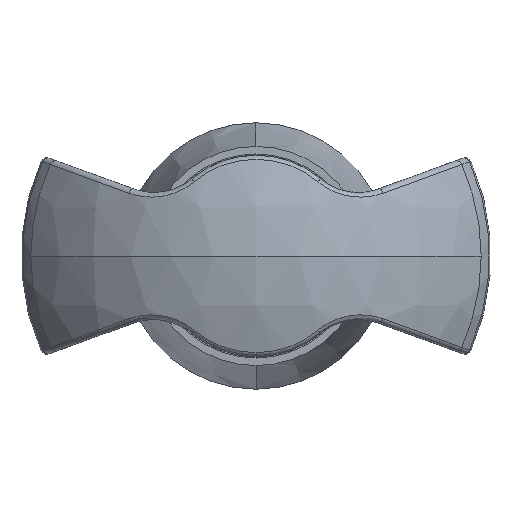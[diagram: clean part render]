
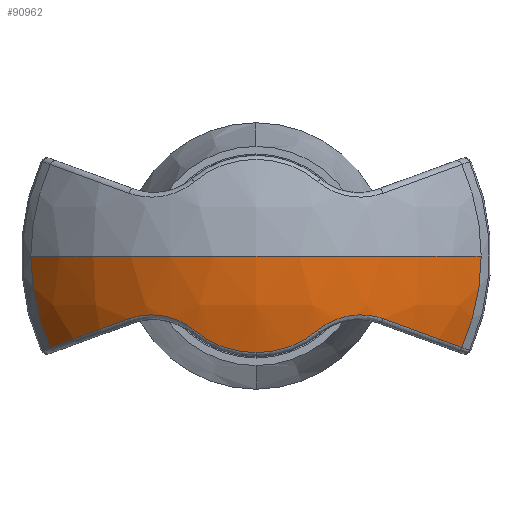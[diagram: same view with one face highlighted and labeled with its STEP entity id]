
A CAD part, left-side view. The second image highlights one B-rep face of the part: STEP entity #90962.
In plain terms, the highlighted spherical face has radius 24 mm.
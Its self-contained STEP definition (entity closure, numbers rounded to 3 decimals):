
#551 = VERTEX_POINT ( 'NONE', #48860 ) ;
#590 = CARTESIAN_POINT ( 'NONE',  ( 10.326, 27.09, -5.156 ) ) ;
#781 = CARTESIAN_POINT ( 'NONE',  ( 5.232, 28.607, -6.275 ) ) ;
#1097 = B_SPLINE_CURVE_WITH_KNOTS ( 'NONE', 3,
 ( #7609, #590, #29118, #57638, #22103, #50621, #79131, #15076, #43605, #89690, #55104, #26130, #53733, #90609, #69127, #61209 ),
 .UNSPECIFIED., .F., .F.,
 ( 4, 2, 2, 2, 2, 2, 2, 4 ),
 ( 0., 0.002, 0.002, 0.003, 0.004, 0.005, 0.005, 0.006 ),
 .UNSPECIFIED. ) ;
#2571 = DIRECTION ( 'NONE',  ( 0., 0., -1. ) ) ;
#2628 = ORIENTED_EDGE ( 'NONE', *, *, #7882, .T. ) ;
#2901 = DIRECTION ( 'NONE',  ( 0., 0., -1. ) ) ;
#4055 = B_SPLINE_CURVE_WITH_KNOTS ( 'NONE', 3,
 ( #18544, #82592, #75584, #11977, #32588, #47981, #76496, #33040, #4973, #11522, #39607, #4519, #5439, #4070, #90977, #12445 ),
 .UNSPECIFIED., .F., .F.,
 ( 4, 2, 2, 2, 2, 2, 2, 4 ),
 ( 0., 0.002, 0.002, 0.003, 0.004, 0.005, 0.005, 0.006 ),
 .UNSPECIFIED. ) ;
#4070 = CARTESIAN_POINT ( 'NONE',  ( -10.321, 27.085, -5.169 ) ) ;
#4519 = CARTESIAN_POINT ( 'NONE',  ( -9.642, 27.438, -5.026 ) ) ;
#4973 = CARTESIAN_POINT ( 'NONE',  ( -8.459, 27.943, -4.979 ) ) ;
#5037 = EDGE_CURVE ( 'NONE', #82109, #38217, #57279, .T. ) ;
#5439 = CARTESIAN_POINT ( 'NONE',  ( -9.872, 27.324, -5.065 ) ) ;
#5795 = CIRCLE ( 'NONE', #58065, 19.019 ) ;
#7332 = AXIS2_PLACEMENT_3D ( 'NONE', #12439, #47516, #19454 ) ;
#7609 = CARTESIAN_POINT ( 'NONE',  ( 10.751, 26.831, -5.311 ) ) ;
#7882 = EDGE_CURVE ( 'NONE', #83776, #39553, #1097, .T. ) ;
#8051 = ORIENTED_EDGE ( 'NONE', *, *, #88239, .F. ) ;
#8282 = ORIENTED_EDGE ( 'NONE', *, *, #69415, .T. ) ;
#9330 = EDGE_LOOP ( 'NONE', ( #47502, #57951, #8051, #79442, #2628, #70506, #33467, #82572, #8282, #35615 ) ) ;
#11522 = CARTESIAN_POINT ( 'NONE',  ( -8.939, 27.754, -4.968 ) ) ;
#11977 = CARTESIAN_POINT ( 'NONE',  ( -6.768, 28.436, -5.358 ) ) ;
#12341 = CIRCLE ( 'NONE', #39260, 24. ) ;
#12439 = CARTESIAN_POINT ( 'NONE',  ( 0.449, 6.041, -1.234 ) ) ;
#12445 = CARTESIAN_POINT ( 'NONE',  ( -10.751, 26.831, -5.311 ) ) ;
#13107 = AXIS2_PLACEMENT_3D ( 'NONE', #17384, #2901, #38436 ) ;
#13205 = AXIS2_PLACEMENT_3D ( 'NONE', #36567, #43120, #29090 ) ;
#13207 = CARTESIAN_POINT ( 'NONE',  ( 0., 6.041, 0. ) ) ;
#14804 = VERTEX_POINT ( 'NONE', #31822 ) ;
#15076 = CARTESIAN_POINT ( 'NONE',  ( 7.738, 28.187, -5.074 ) ) ;
#17384 = CARTESIAN_POINT ( 'NONE',  ( 0., 6.041, 0. ) ) ;
#18544 = CARTESIAN_POINT ( 'NONE',  ( -5.232, 28.607, -6.275 ) ) ;
#19454 = DIRECTION ( 'NONE',  ( 0.94, 0., 0.342 ) ) ;
#19918 = CARTESIAN_POINT ( 'NONE',  ( 0., 30.041, 0. ) ) ;
#21443 = DIRECTION ( 'NONE',  ( 0., 0., -1. ) ) ;
#22103 = CARTESIAN_POINT ( 'NONE',  ( 8.943, 27.753, -4.968 ) ) ;
#22293 = CIRCLE ( 'NONE', #7332, 23.964 ) ;
#22329 = VERTEX_POINT ( 'NONE', #67910 ) ;
#23725 = VERTEX_POINT ( 'NONE', #66202 ) ;
#25313 = FACE_OUTER_BOUND ( 'NONE', #9330, .T. ) ;
#26130 = CARTESIAN_POINT ( 'NONE',  ( 6.309, 28.52, -5.563 ) ) ;
#26325 = CARTESIAN_POINT ( 'NONE',  ( 0., 20.68, 0. ) ) ;
#26623 = DIRECTION ( 'NONE',  ( 0., 1., 0. ) ) ;
#27088 = DIRECTION ( 'NONE',  ( 0., 0., -1. ) ) ;
#27856 = DIRECTION ( 'NONE',  ( 0., 0., -1. ) ) ;
#29090 = DIRECTION ( 'NONE',  ( 0.94, 0., -0.342 ) ) ;
#29118 = CARTESIAN_POINT ( 'NONE',  ( 9.882, 27.327, -5.052 ) ) ;
#31050 = CARTESIAN_POINT ( 'NONE',  ( -19.019, 20.68, 0. ) ) ;
#31822 = CARTESIAN_POINT ( 'NONE',  ( -17.38, 20.68, -7.724 ) ) ;
#31854 = VERTEX_POINT ( 'NONE', #35340 ) ;
#32588 = CARTESIAN_POINT ( 'NONE',  ( -7.007, 28.384, -5.27 ) ) ;
#33040 = CARTESIAN_POINT ( 'NONE',  ( -8.214, 28.032, -5. ) ) ;
#33467 = ORIENTED_EDGE ( 'NONE', *, *, #60689, .T. ) ;
#35340 = CARTESIAN_POINT ( 'NONE',  ( -5.232, 28.607, -6.275 ) ) ;
#35615 = ORIENTED_EDGE ( 'NONE', *, *, #45711, .F. ) ;
#35788 = CARTESIAN_POINT ( 'NONE',  ( 0., 20.68, 0. ) ) ;
#36567 = CARTESIAN_POINT ( 'NONE',  ( -0.449, 6.041, -1.234 ) ) ;
#38217 = VERTEX_POINT ( 'NONE', #43629 ) ;
#38436 = DIRECTION ( 'NONE',  ( -1., 0., 0. ) ) ;
#39260 = AXIS2_PLACEMENT_3D ( 'NONE', #13207, #57136, #63241 ) ;
#39553 = VERTEX_POINT ( 'NONE', #781 ) ;
#39607 = CARTESIAN_POINT ( 'NONE',  ( -9.176, 27.653, -4.978 ) ) ;
#43120 = DIRECTION ( 'NONE',  ( 0.342, 0., 0.94 ) ) ;
#43605 = CARTESIAN_POINT ( 'NONE',  ( 7.497, 28.257, -5.126 ) ) ;
#43629 = CARTESIAN_POINT ( 'NONE',  ( 19.019, 20.68, 0. ) ) ;
#44530 = CARTESIAN_POINT ( 'NONE',  ( 0., 6.041, 0. ) ) ;
#45711 = EDGE_CURVE ( 'NONE', #77518, #14804, #81044, .T. ) ;
#46892 = CARTESIAN_POINT ( 'NONE',  ( 10.751, 26.831, -5.311 ) ) ;
#47502 = ORIENTED_EDGE ( 'NONE', *, *, #55092, .F. ) ;
#47516 = DIRECTION ( 'NONE',  ( -0.342, 0., 0.94 ) ) ;
#47981 = CARTESIAN_POINT ( 'NONE',  ( -7.486, 28.261, -5.129 ) ) ;
#48860 = CARTESIAN_POINT ( 'NONE',  ( 17.38, 20.68, -7.724 ) ) ;
#50621 = CARTESIAN_POINT ( 'NONE',  ( 8.461, 27.943, -4.979 ) ) ;
#51210 = DIRECTION ( 'NONE',  ( 0., -1., 0. ) ) ;
#53532 = CIRCLE ( 'NONE', #13205, 23.964 ) ;
#53733 = CARTESIAN_POINT ( 'NONE',  ( 6.083, 28.553, -5.683 ) ) ;
#54257 = AXIS2_PLACEMENT_3D ( 'NONE', #44530, #27856, #92330 ) ;
#55092 = EDGE_CURVE ( 'NONE', #82109, #77518, #12341, .T. ) ;
#55104 = CARTESIAN_POINT ( 'NONE',  ( 6.774, 28.435, -5.355 ) ) ;
#55597 = AXIS2_PLACEMENT_3D ( 'NONE', #35788, #51210, #2571 ) ;
#57136 = DIRECTION ( 'NONE',  ( 0., 0., 1. ) ) ;
#57141 = CIRCLE ( 'NONE', #81049, 8.17 ) ;
#57279 = CIRCLE ( 'NONE', #54257, 24. ) ;
#57638 = CARTESIAN_POINT ( 'NONE',  ( 9.183, 27.65, -4.978 ) ) ;
#57951 = ORIENTED_EDGE ( 'NONE', *, *, #5037, .T. ) ;
#58065 = AXIS2_PLACEMENT_3D ( 'NONE', #26325, #75873, #61853 ) ;
#60401 = SPHERICAL_SURFACE ( 'NONE', #13107, 24. ) ;
#60689 = EDGE_CURVE ( 'NONE', #22329, #31854, #57141, .T. ) ;
#60700 = EDGE_CURVE ( 'NONE', #39553, #22329, #72096, .T. ) ;
#61209 = CARTESIAN_POINT ( 'NONE',  ( 5.232, 28.607, -6.275 ) ) ;
#61853 = DIRECTION ( 'NONE',  ( 0., 0., -1. ) ) ;
#63241 = DIRECTION ( 'NONE',  ( 1., 0., 0. ) ) ;
#66202 = CARTESIAN_POINT ( 'NONE',  ( -10.751, 26.831, -5.311 ) ) ;
#67910 = CARTESIAN_POINT ( 'NONE',  ( 0., 28.607, -8.17 ) ) ;
#69127 = CARTESIAN_POINT ( 'NONE',  ( 5.433, 28.607, -6.108 ) ) ;
#69415 = EDGE_CURVE ( 'NONE', #23725, #14804, #22293, .T. ) ;
#70506 = ORIENTED_EDGE ( 'NONE', *, *, #60700, .T. ) ;
#72096 = CIRCLE ( 'NONE', #89945, 8.17 ) ;
#74547 = EDGE_CURVE ( 'NONE', #31854, #23725, #4055, .T. ) ;
#75584 = CARTESIAN_POINT ( 'NONE',  ( -6.067, 28.564, -5.671 ) ) ;
#75873 = DIRECTION ( 'NONE',  ( 0., -1., 0. ) ) ;
#76496 = CARTESIAN_POINT ( 'NONE',  ( -7.728, 28.19, -5.076 ) ) ;
#77518 = VERTEX_POINT ( 'NONE', #31050 ) ;
#79131 = CARTESIAN_POINT ( 'NONE',  ( 8.22, 28.03, -5. ) ) ;
#79442 = ORIENTED_EDGE ( 'NONE', *, *, #89336, .T. ) ;
#81044 = CIRCLE ( 'NONE', #55597, 19.019 ) ;
#81049 = AXIS2_PLACEMENT_3D ( 'NONE', #90639, #26623, #27088 ) ;
#82109 = VERTEX_POINT ( 'NONE', #19918 ) ;
#82572 = ORIENTED_EDGE ( 'NONE', *, *, #74547, .T. ) ;
#82592 = CARTESIAN_POINT ( 'NONE',  ( -5.633, 28.607, -5.941 ) ) ;
#83776 = VERTEX_POINT ( 'NONE', #46892 ) ;
#84096 = CARTESIAN_POINT ( 'NONE',  ( 0., 28.607, 0. ) ) ;
#85472 = DIRECTION ( 'NONE',  ( 0., 1., 0. ) ) ;
#88239 = EDGE_CURVE ( 'NONE', #551, #38217, #5795, .T. ) ;
#89336 = EDGE_CURVE ( 'NONE', #551, #83776, #53532, .T. ) ;
#89690 = CARTESIAN_POINT ( 'NONE',  ( 7.016, 28.382, -5.267 ) ) ;
#89945 = AXIS2_PLACEMENT_3D ( 'NONE', #84096, #85472, #21443 ) ;
#90609 = CARTESIAN_POINT ( 'NONE',  ( 5.646, 28.596, -5.954 ) ) ;
#90639 = CARTESIAN_POINT ( 'NONE',  ( 0., 28.607, 0. ) ) ;
#90962 = ADVANCED_FACE ( 'NONE', ( #25313 ), #60401, .T. ) ;
#90977 = CARTESIAN_POINT ( 'NONE',  ( -10.539, 26.96, -5.234 ) ) ;
#92330 = DIRECTION ( 'NONE',  ( -1., 0., 0. ) ) ;
